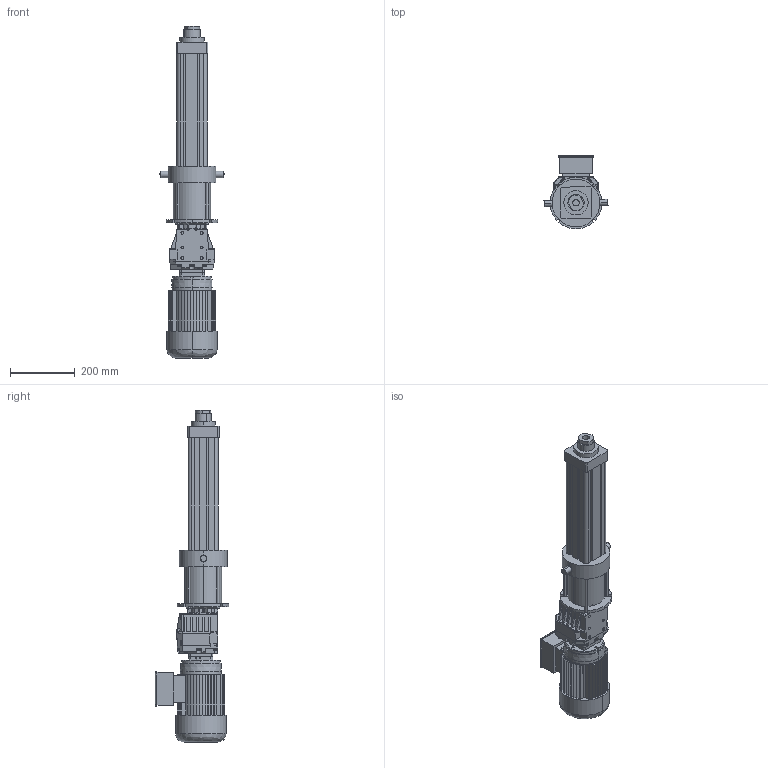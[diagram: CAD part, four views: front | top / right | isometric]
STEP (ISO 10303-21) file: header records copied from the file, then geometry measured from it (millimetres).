
FILE_DESCRIPTION (( 'STEP AP214' ), '1' );
FILE_NAME ('Ass MR80 BI C200.STEP', '2016-12-25T10:39:24', ( 'Hubert' ), ( '' ), 'SwSTEP 2.0', 'SolidWorks 2014', '' );
FILE_SCHEMA (( 'AUTOMOTIVE_DESIGN' ));
Length unit declared in the file: millimetre
Products named in the file (10): Ass MR80 BI C200; Tube MR 80 BI C200; PAAV 80 D; Profilé MRRV80 BI C200; Vis MRRV80 BI C200; PAAR 80 B160; PAAR 80B160; Ass 402A_F MOT 80 F; _P_402A_-F_6,36_V_3_-R___B3.3d; _AT_80_B_2_1,10_B14_F_230-400-50_DC-S.3d
Assembly tree (9 placements, depth 3):
  Ass MR80 BI C200
    Ass 402A_F MOT 80 F
      _AT_80_B_2_1,10_B14_F_230-400-50_DC-S.3d
      _P_402A_-F_6,36_V_3_-R___B3.3d
    PAAR 80 B160
      PAAR 80B160
    Vis MRRV80 BI C200
    Profilé MRRV80 BI C200
    PAAV 80 D
    Tube MR 80 BI C200
Bounding box: 198.33 x 229 x 1028.8 mm (x, y, z)
Volume: 7374903.7 mm3; surface area: 1150405 mm2
Topology: 6 solids, 26 shells, 1443 faces, 3631 edges, 2299 vertices
Faces by surface type: plane 787, cylinder 440, cone 112, bspline 104
Entity records: 78633 total; most frequent: CARTESIAN_POINT 30556, ORIENTED_EDGE 7184, DIRECTION 6238, EDGE_CURVE 3593, VERTEX_POINT 2299, VECTOR 2122, LINE 2122, AXIS2_PLACEMENT_3D 2058
